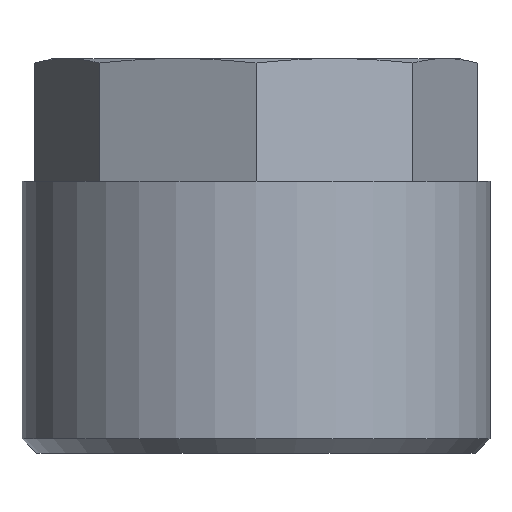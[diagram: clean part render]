
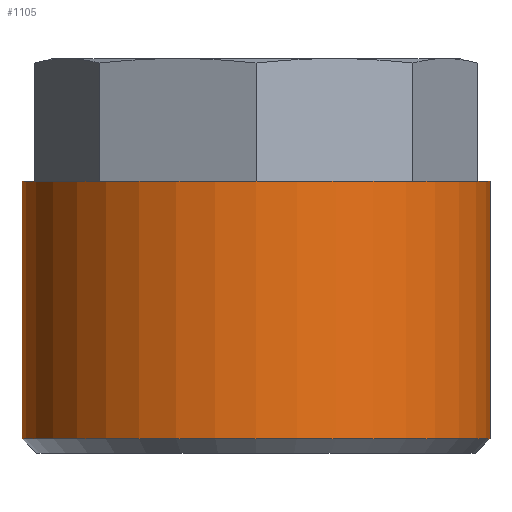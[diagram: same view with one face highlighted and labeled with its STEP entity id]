
A CAD part, front view. The second image highlights one B-rep face of the part: STEP entity #1105.
In plain terms, the highlighted cylindrical face has radius 8 mm (diameter 16 mm), a full revolution.
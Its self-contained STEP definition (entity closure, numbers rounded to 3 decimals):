
#585=CYLINDRICAL_SURFACE('',#1060,8.);
#678=ORIENTED_EDGE('',*,*,#785,.F.);
#679=ORIENTED_EDGE('',*,*,#786,.T.);
#701=CIRCLE('',#1059,8.);
#702=CIRCLE('',#1061,8.);
#735=VERTEX_POINT('',#1209);
#736=VERTEX_POINT('',#1212);
#785=EDGE_CURVE('',#735,#735,#701,.T.);
#786=EDGE_CURVE('',#736,#736,#702,.T.);
#818=EDGE_LOOP('',(#678));
#819=EDGE_LOOP('',(#679));
#856=FACE_BOUND('',#818,.T.);
#857=FACE_BOUND('',#819,.T.);
#984=DIRECTION('',(0.,1.,0.));
#985=DIRECTION('',(0.,0.,-8.));
#986=DIRECTION('',(0.,1.,0.));
#987=DIRECTION('',(1.,0.,0.));
#988=DIRECTION('',(0.,1.,0.));
#989=DIRECTION('',(0.,0.,8.));
#1059=AXIS2_PLACEMENT_3D('',#1210,#984,#985);
#1060=AXIS2_PLACEMENT_3D('',#1211,#986,#987);
#1061=AXIS2_PLACEMENT_3D('',#1213,#988,#989);
#1105=ADVANCED_FACE('',(#856,#857),#585,.T.);
#1209=CARTESIAN_POINT('',(26.989,23.895,-8.));
#1210=CARTESIAN_POINT('',(26.989,23.895,0.));
#1211=CARTESIAN_POINT('',(26.989,15.095,0.));
#1212=CARTESIAN_POINT('',(26.989,15.095,8.));
#1213=CARTESIAN_POINT('',(26.989,15.095,0.));
